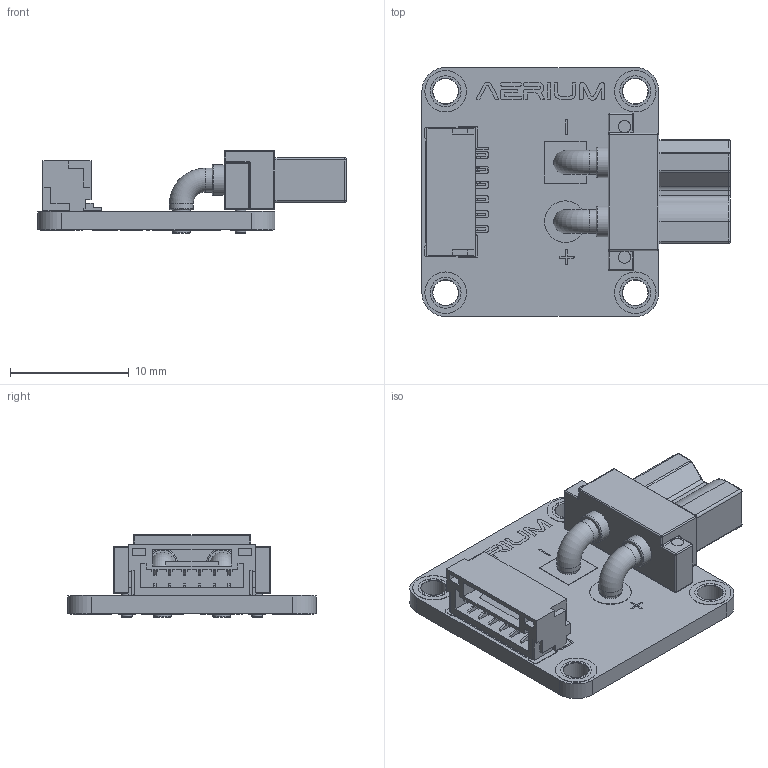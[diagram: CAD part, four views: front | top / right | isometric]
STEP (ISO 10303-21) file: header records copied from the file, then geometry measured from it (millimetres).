
FILE_DESCRIPTION(/* description */ ('KiCad electronic assembly'),/* implementation_level */ '2;1');
FILE_NAME(/* name */ 'XT30_Female.step',/* time_stamp */ '2026-09-20T15:53:09+03:00',/* author */ (''),/* organization */ (''),/* preprocessor_version */ 'ST-DEVELOPER v20.1',/* originating_system */ 'Autodesk Translation Framework v15.8.0.0',/* authorisation */ '');
FILE_SCHEMA (('AUTOMOTIVE_DESIGN { 1 0 10303 214 3 1 1 }'));
Length unit declared in the file: millimetre
Products named in the file (7): 2026-09-20-12-12-57-162; 2026-09-20-12-12-57-163; 2026-09-20-12-12-57-164; 2026-09-20-12-12-57-165; 2026-09-20-12-12-57-166; 2026-09-20-12-12-57-167; 2026-09-20-12-12-57-168
Assembly tree (6 placements, depth 2):
  2026-09-20-12-12-57-162
    2026-09-20-12-12-57-163
    2026-09-20-12-12-57-164
    2026-09-20-12-12-57-165
    2026-09-20-12-12-57-166
    2026-09-20-12-12-57-167
    2026-09-20-12-12-57-168
Bounding box: 26 x 21 x 7 mm (x, y, z)
Volume: 1100.3 mm3; surface area: 2580.3 mm2
Topology: 43 solids, 62 shells, 705 faces, 2078 edges, 1494 vertices
Faces by surface type: plane 463, cylinder 194, torus 24, sphere 14, bspline 10
Full cylindrical faces by diameter (mm): 0.35 x1, 0.9 x2, 0.92 x2, 0.95 x6, 1 x4, 1.03 x2, 1.05 x2, 1.4 x4, 1.5 x2, 1.85 x6, 1.9 x4, 2 x4, 2.15 x20, 2.2 x8, 2.5 x2, 2.58 x4, 2.6 x10, 3.5 x10
Entity records: 24770 total; most frequent: CARTESIAN_POINT 4839, DIRECTION 3963, ORIENTED_EDGE 3675, EDGE_CURVE 2064, LINE 1575, VECTOR 1575, VERTEX_POINT 1494, AXIS2_PLACEMENT_3D 1194
